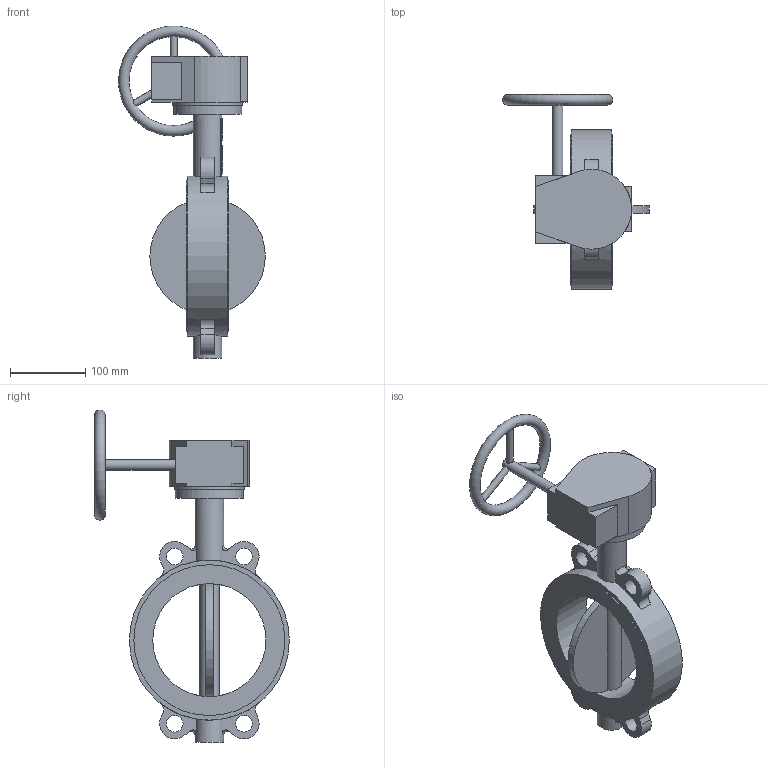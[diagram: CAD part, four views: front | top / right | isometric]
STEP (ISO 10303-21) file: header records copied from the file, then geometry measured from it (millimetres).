
FILE_DESCRIPTION(('STEP AP203'), '1');
FILE_NAME('青蜮铕 015WDN150 疱潴牝铕', '', ('UNSPECIFIED'), ('UNSPECIFIED'), 'ASCON STEP Converter 1.6', 'ASCON Math Kernel', '');
FILE_SCHEMA(('CONFIG_CONTROL_DESIGN'));
Length unit declared in the file: millimetre
Bounding box: 194.41 x 258 x 439.98 mm (x, y, z)
Volume: 800033.6 mm3; surface area: 267580 mm2
Topology: 1 solids, 2 shells, 673 faces, 1966 edges, 1265 vertices
Faces by surface type: cylinder 467, plane 199, bspline 6, torus 1
Full cylindrical faces by diameter (mm): 6.7 x4, 9 x3, 10 x4, 14 x1, 18.9 x1, 22 x4, 38 x2, 55 x1, 90 x1, 92 x1, 150 x1, 200 x2, 212 x1
Entity records: 30749 total; most frequent: CARTESIAN_POINT 6745, DIRECTION 4212, ORIENTED_EDGE 3813, EDGE_CURVE 1938, AXIS2_PLACEMENT_3D 1651, VERTEX_POINT 1264, CIRCLE 983, LINE 910
